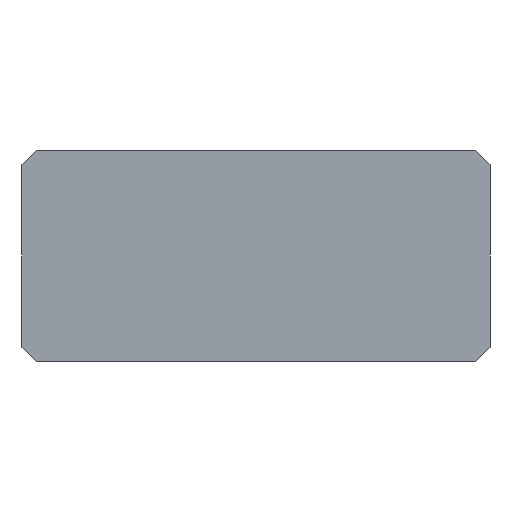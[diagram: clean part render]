
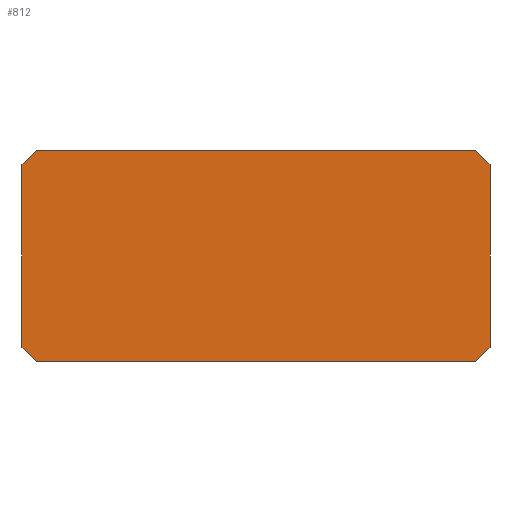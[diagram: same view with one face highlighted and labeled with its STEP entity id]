
A CAD part, front view. The second image highlights one B-rep face of the part: STEP entity #812.
In plain terms, the highlighted planar face has unit normal (0, -1, 0).
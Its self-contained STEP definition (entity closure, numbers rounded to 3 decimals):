
#68=DIRECTION('',(1.,0.,0.));
#69=VECTOR('',#68,9.4);
#70=CARTESIAN_POINT('',(0.3,0.,0.));
#71=LINE('',#70,#69);
#136=DIRECTION('',(1.,0.,0.));
#137=VECTOR('',#136,9.4);
#138=CARTESIAN_POINT('',(0.3,0.,4.5));
#139=LINE('',#138,#137);
#286=DIRECTION('',(-0.707,0.,-0.707));
#287=VECTOR('',#286,0.424);
#288=CARTESIAN_POINT('',(0.3,0.,4.5));
#289=LINE('',#288,#287);
#290=DIRECTION('',(-0.707,0.,0.707));
#291=VECTOR('',#290,0.424);
#292=CARTESIAN_POINT('',(10.,0.,4.2));
#293=LINE('',#292,#291);
#294=DIRECTION('',(0.707,0.,0.707));
#295=VECTOR('',#294,0.424);
#296=CARTESIAN_POINT('',(9.7,0.,0.));
#297=LINE('',#296,#295);
#298=DIRECTION('',(0.707,0.,-0.707));
#299=VECTOR('',#298,0.424);
#300=CARTESIAN_POINT('',(0.,0.,0.3));
#301=LINE('',#300,#299);
#302=DIRECTION('',(0.,0.,1.));
#303=VECTOR('',#302,3.9);
#304=CARTESIAN_POINT('',(0.,0.,0.3));
#305=LINE('',#304,#303);
#314=DIRECTION('',(0.,0.,1.));
#315=VECTOR('',#314,3.9);
#316=CARTESIAN_POINT('',(10.,0.,0.3));
#317=LINE('',#316,#315);
#452=CARTESIAN_POINT('',(0.3,0.,4.5));
#453=CARTESIAN_POINT('',(0.,0.,4.2));
#454=VERTEX_POINT('',#452);
#455=VERTEX_POINT('',#453);
#464=CARTESIAN_POINT('',(0.,0.,0.3));
#465=VERTEX_POINT('',#464);
#466=CARTESIAN_POINT('',(0.3,0.,0.));
#467=VERTEX_POINT('',#466);
#472=CARTESIAN_POINT('',(10.,0.,4.2));
#473=VERTEX_POINT('',#472);
#474=CARTESIAN_POINT('',(9.7,0.,4.5));
#475=VERTEX_POINT('',#474);
#476=CARTESIAN_POINT('',(9.7,0.,0.));
#477=CARTESIAN_POINT('',(10.,0.,0.3));
#478=VERTEX_POINT('',#476);
#479=VERTEX_POINT('',#477);
#792=CARTESIAN_POINT('',(0.,0.,0.));
#793=DIRECTION('',(0.,-1.,0.));
#794=DIRECTION('',(1.,0.,0.));
#795=AXIS2_PLACEMENT_3D('',#792,#793,#794);
#796=PLANE('',#795);
#797=ORIENTED_EDGE('',*,*,#783,.F.);
#798=ORIENTED_EDGE('',*,*,#551,.T.);
#800=ORIENTED_EDGE('',*,*,#799,.F.);
#802=ORIENTED_EDGE('',*,*,#801,.F.);
#804=ORIENTED_EDGE('',*,*,#803,.F.);
#805=ORIENTED_EDGE('',*,*,#491,.F.);
#807=ORIENTED_EDGE('',*,*,#806,.F.);
#809=ORIENTED_EDGE('',*,*,#808,.T.);
#810=EDGE_LOOP('',(#797,#798,#800,#802,#804,#805,#807,#809));
#811=FACE_OUTER_BOUND('',#810,.F.);
#491=EDGE_CURVE('',#467,#478,#71,.T.);
#551=EDGE_CURVE('',#454,#475,#139,.T.);
#783=EDGE_CURVE('',#454,#455,#289,.T.);
#799=EDGE_CURVE('',#473,#475,#293,.T.);
#801=EDGE_CURVE('',#479,#473,#317,.T.);
#803=EDGE_CURVE('',#478,#479,#297,.T.);
#806=EDGE_CURVE('',#465,#467,#301,.T.);
#808=EDGE_CURVE('',#465,#455,#305,.T.);
#812=ADVANCED_FACE('',(#811),#796,.T.);
